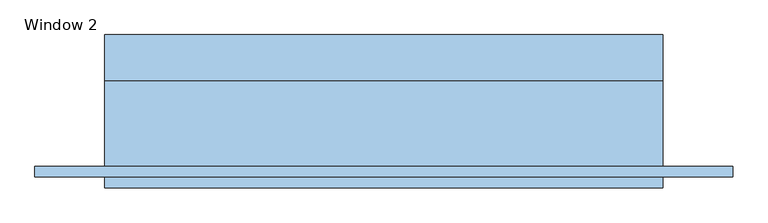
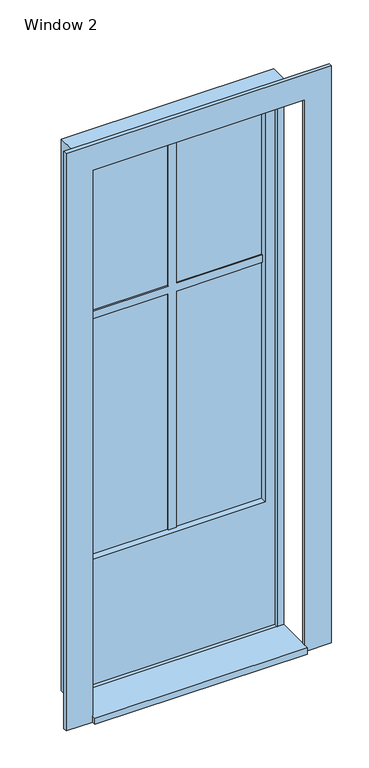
"""IFC4 building model written with IfcOpenShell, lengths in millimetres: window geometry, Window 2 : 800/2200."""

from ifc_helpers import new_model, si_unit, frame, origin, origin_with_axes, place, context, project, spatial, polyline, outline, extrude, source, transform, mapped, element, save


def window_2_78aac011(model_context):
    return source(origin(), model_context, "Body", "SweptSolid", [
        extrude(outline(polyline([(400.0, -26.9623738), (400.0, -180.0), (-400.0, -180.0), (-400.0, -26.9623738), (400.0, -26.9623738)])), origin_with_axes(), (0.0, 0.0, 1.0), 25.0),
        extrude(outline(polyline([(2175.0, -375.0), (25.0, -375.0), (25.0, 375.0), (2175.0, 375.0), (2175.0, -375.0)]), holes=[polyline([(2140.0, -340.0), (2140.0, 340.0), (525.0, 340.0), (525.0, -340.0), (2140.0, -340.0)])]), frame((0.0, -11.4811869, 0.0), z_axis=(0.0, 1.0, 0.0), x_axis=(0.0, 0.0, 1.0)), (0.0, 0.0, 1.0), 50.5),
        extrude(outline(polyline([(0.0, -400.0), (0.0, 400.0), (2200.0, 400.0), (2200.0, -400.0), (0.0, -400.0)]), holes=[polyline([(25.0, -375.0), (2175.0, -375.0), (2175.0, 375.0), (25.0, 375.0), (25.0, -375.0)])]), frame((0.0, -26.9623738, 0.0), z_axis=(0.0, 1.0, 0.0), x_axis=(0.0, 0.0, 1.0)), (0.0, 0.0, 1.0), 65.9811869),
        extrude(outline(polyline([(2200.0, -400.0), (2200.0, 400.0), (0.0, 400.0), (0.0, 500.0), (2300.0, 500.0), (2300.0, -500.0), (0.0, -500.0), (0.0, -400.0), (2200.0, -400.0)])), frame((0.0, -165.0, 0.0), z_axis=(0.0, 1.0, 0.0), x_axis=(0.0, 0.0, 1.0)), (0.0, 0.0, 1.0), 15.0),
        extrude(outline(polyline([(1497.5, 340.0), (1497.5, 15.0), (2140.0, 15.0), (2140.0, -15.0), (1497.5, -15.0), (1497.5, -340.0), (1467.5, -340.0), (1467.5, -15.0), (525.0, -15.0), (525.0, 15.0), (1467.5, 15.0), (1467.5, 340.0), (1497.5, 340.0)])), frame((0.0, 8.5188131, 0.0), z_axis=(0.0, 1.0, 0.0), x_axis=(0.0, 0.0, 1.0)), (0.0, 0.0, 1.0), 20.0),
        extrude(outline(polyline([(340.0, 15.5188131), (340.0, 13.5188131), (-340.0, 13.5188131), (-340.0, 15.5188131), (340.0, 15.5188131)])), frame((0.0, 0.0, 525.0), z_axis=(0.0, 0.0, 1.0), x_axis=(1.0, 0.0, 0.0)), (0.0, 0.0, 1.0), 1615.0),
    ])


if __name__ == "__main__":
    model = new_model("IFC4")
    model_context = context("Model", 3, world=origin())
    ifc_project = project(units=[si_unit("LENGTHUNIT", "METRE", prefix="MILLI")], contexts=[model_context])
    site = spatial("IfcSite", under=ifc_project)
    building = spatial("IfcBuilding", under=site)
    placement = place(None, origin())
    window_2_shape = window_2_78aac011(model_context)
    element("IfcWindow", 1, ObjectType="Window 2 : 800/2200", at=placement, inside=building, context=model_context, shape_type="MappedRepresentation", body=[
        mapped(window_2_shape, transform((0.0, 0.0, 0.0), x_axis=(1.0, 0.0, 0.0), y_axis=(0.0, 1.0, 0.0), z_axis=(0.0, 0.0, 1.0))),
    ])
    save(model, "model.ifc")
